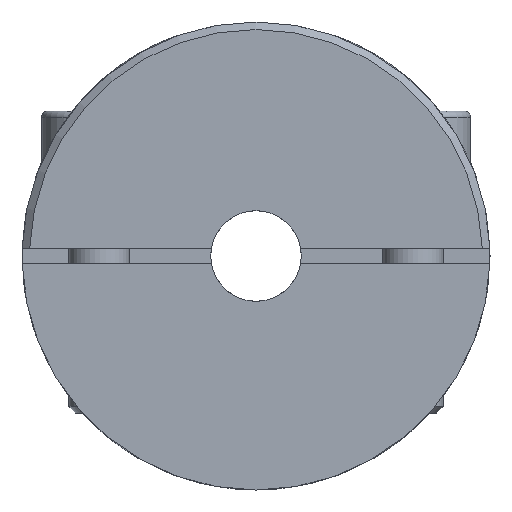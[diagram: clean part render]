
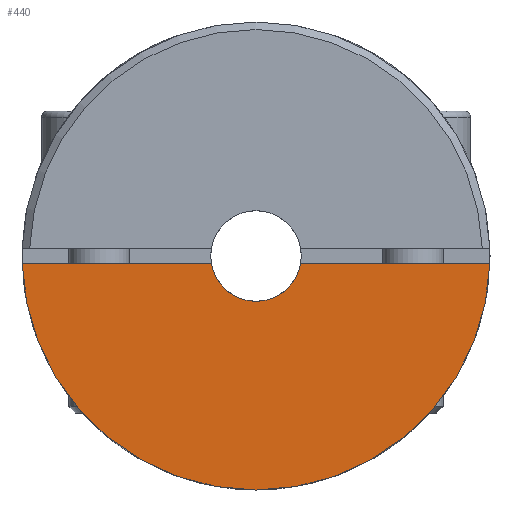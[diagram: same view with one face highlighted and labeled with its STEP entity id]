
A CAD part, left-side view. The second image highlights one B-rep face of the part: STEP entity #440.
In plain terms, the highlighted planar face has unit normal (-1, 0, 0) as drawn and (1, 0, 0) by its records, which use the part's own axes.
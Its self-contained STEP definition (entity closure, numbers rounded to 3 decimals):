
#440 = ADVANCED_FACE( '', ( #894 ), #895, .T. );
#894 = FACE_OUTER_BOUND( '', #1338, .T. );
#895 = PLANE( '', #1339 );
#1338 = EDGE_LOOP( '', ( #2021, #2022, #2023, #2024 ) );
#1339 = AXIS2_PLACEMENT_3D( '', #2025, #2026, #2027 );
#2021 = ORIENTED_EDGE( '', *, *, #2342, .F. );
#2022 = ORIENTED_EDGE( '', *, *, #2397, .T. );
#2023 = ORIENTED_EDGE( '', *, *, #2212, .T. );
#2024 = ORIENTED_EDGE( '', *, *, #2265, .T. );
#2025 = CARTESIAN_POINT( '', ( 7.3, 0., 7.75 ) );
#2026 = DIRECTION( '', ( 1., 0., 0. ) );
#2027 = DIRECTION( '', ( 0., 0., -1. ) );
#2212 = EDGE_CURVE( '', #2512, #2514, #2516, .T. );
#2265 = EDGE_CURVE( '', #2514, #2597, #2599, .T. );
#2342 = EDGE_CURVE( '', #2707, #2597, #2709, .T. );
#2397 = EDGE_CURVE( '', #2707, #2512, #2776, .T. );
#2512 = VERTEX_POINT( '', #2975 );
#2514 = VERTEX_POINT( '', #2978 );
#2516 = CIRCLE( '', #2981, 1.5 );
#2597 = VERTEX_POINT( '', #3136 );
#2599 = LINE( '', #3139, #3140 );
#2707 = VERTEX_POINT( '', #3259 );
#2709 = CIRCLE( '', #3262, 7.75 );
#2776 = LINE( '', #3381, #3382 );
#2975 = CARTESIAN_POINT( '', ( 7.3, 1.479, -0.25 ) );
#2978 = CARTESIAN_POINT( '', ( 7.3, -1.479, -0.25 ) );
#2981 = AXIS2_PLACEMENT_3D( '', #3493, #3494, #3495 );
#3136 = CARTESIAN_POINT( '', ( 7.3, -7.746, -0.25 ) );
#3139 = CARTESIAN_POINT( '', ( 7.3, 0., -0.25 ) );
#3140 = VECTOR( '', #3574, 1000. );
#3259 = CARTESIAN_POINT( '', ( 7.3, 7.746, -0.25 ) );
#3262 = AXIS2_PLACEMENT_3D( '', #3683, #3684, #3685 );
#3381 = CARTESIAN_POINT( '', ( 7.3, 0., -0.25 ) );
#3382 = VECTOR( '', #3736, 1000. );
#3493 = CARTESIAN_POINT( '', ( 7.3, 0., 0. ) );
#3494 = DIRECTION( '', ( -1., 0., 0. ) );
#3495 = DIRECTION( '', ( 0., 0., 1. ) );
#3574 = DIRECTION( '', ( 0., -1., 0. ) );
#3683 = CARTESIAN_POINT( '', ( 7.3, 0., 0. ) );
#3684 = DIRECTION( '', ( -1., 0., 0. ) );
#3685 = DIRECTION( '', ( 0., 0., 1. ) );
#3736 = DIRECTION( '', ( 0., -1., 0. ) );
